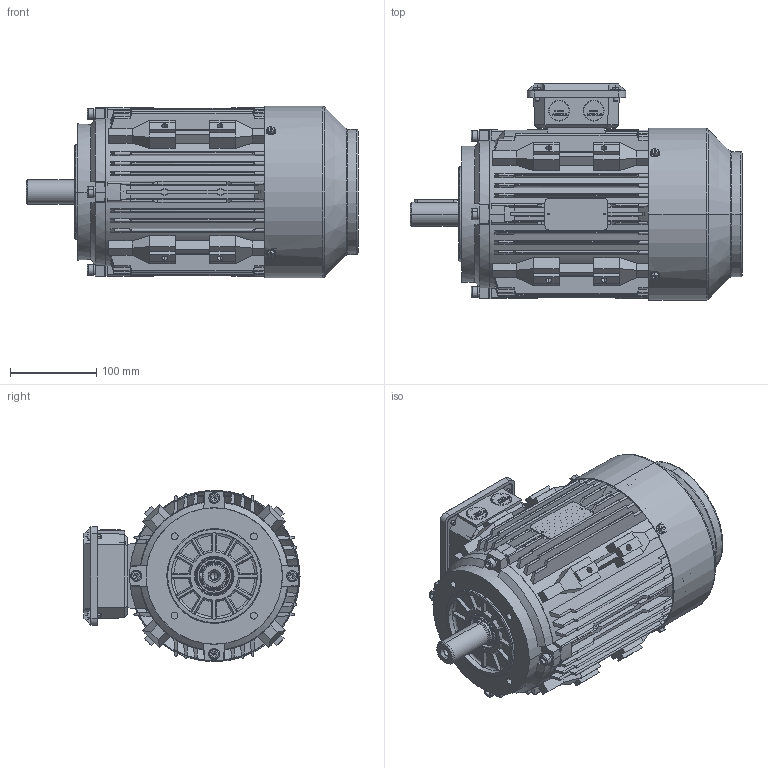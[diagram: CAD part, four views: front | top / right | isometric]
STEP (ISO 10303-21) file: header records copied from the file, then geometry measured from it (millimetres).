
FILE_DESCRIPTION (( 'STEP AP214' ), '1' );
FILE_NAME ('BCT3150.10H614.11.STEP', '2020-04-23T13:56:06', ( '' ), ( '' ), 'SwSTEP 2.0', 'SolidWorks 2019', '' );
FILE_SCHEMA (( 'AUTOMOTIVE_DESIGN' ));
Length unit declared in the file: millimetre
Products named in the file (1): BCT3150.10H614.11
Bounding box: 385 x 250.5 x 199 mm (x, y, z)
Volume: 3024196.5 mm3; surface area: 1020195.3 mm2
Topology: 32 solids, 32 shells, 2908 faces, 7725 edges, 4994 vertices
Faces by surface type: plane 1631, cylinder 710, cone 312, torus 166, bspline 89
Entity records: 109312 total; most frequent: CARTESIAN_POINT 37669, ORIENTED_EDGE 15354, DIRECTION 13920, EDGE_CURVE 7677, VERTEX_POINT 4994, AXIS2_PLACEMENT_3D 4704, VECTOR 4512, LINE 4512
